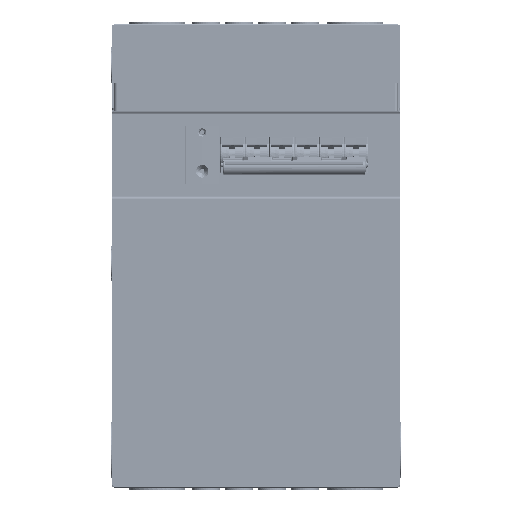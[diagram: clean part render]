
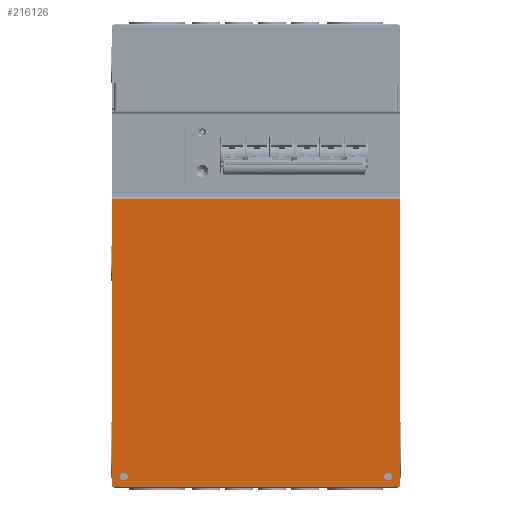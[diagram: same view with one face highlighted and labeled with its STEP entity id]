
A CAD part, top view. The second image highlights one B-rep face of the part: STEP entity #216126.
In plain terms, the highlighted planar face has unit normal (0, 0, 1).
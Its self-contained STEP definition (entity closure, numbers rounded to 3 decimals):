
#29957=LINE('',#393922,#49668);
#29964=LINE('',#393952,#49675);
#30006=LINE('',#394082,#49717);
#30010=LINE('',#394097,#49721);
#49668=VECTOR('',#298261,1000.);
#49675=VECTOR('',#298290,1000.);
#49717=VECTOR('',#298390,1000.);
#49721=VECTOR('',#298408,1000.);
#112506=ORIENTED_EDGE('',*,*,#144244,.F.);
#112507=ORIENTED_EDGE('',*,*,#144167,.F.);
#112508=ORIENTED_EDGE('',*,*,#144240,.T.);
#112509=ORIENTED_EDGE('',*,*,#144236,.T.);
#112510=ORIENTED_EDGE('',*,*,#144242,.T.);
#112511=ORIENTED_EDGE('',*,*,#144182,.T.);
#112512=ORIENTED_EDGE('',*,*,#144234,.T.);
#112513=ORIENTED_EDGE('',*,*,#144232,.T.);
#144167=EDGE_CURVE('',#164211,#164212,#29957,.T.);
#144182=EDGE_CURVE('',#164224,#164223,#29964,.T.);
#144232=EDGE_CURVE('',#164251,#164251,#171666,.T.);
#144234=EDGE_CURVE('',#164253,#164253,#171668,.T.);
#144236=EDGE_CURVE('',#164255,#164256,#30006,.T.);
#144240=EDGE_CURVE('',#164211,#164255,#171670,.F.);
#144242=EDGE_CURVE('',#164256,#164224,#171672,.F.);
#144244=EDGE_CURVE('',#164212,#164223,#30010,.T.);
#164211=VERTEX_POINT('',#393921);
#164212=VERTEX_POINT('',#393923);
#164223=VERTEX_POINT('',#393951);
#164224=VERTEX_POINT('',#393953);
#164251=VERTEX_POINT('',#394073);
#164253=VERTEX_POINT('',#394078);
#164255=VERTEX_POINT('',#394083);
#164256=VERTEX_POINT('',#394084);
#171666=CIRCLE('',#237317,3.048);
#171668=CIRCLE('',#237320,3.048);
#171670=CIRCLE('',#237324,2.54);
#171672=CIRCLE('',#237327,2.54);
#184735=EDGE_LOOP('',(#112506,#112507,#112508,#112509,#112510,#112511));
#184736=EDGE_LOOP('',(#112512));
#184737=EDGE_LOOP('',(#112513));
#197890=FACE_BOUND('',#184735,.T.);
#197891=FACE_BOUND('',#184736,.T.);
#197892=FACE_BOUND('',#184737,.T.);
#204172=PLANE('',#237329);
#216126=ADVANCED_FACE('',(#197890,#197891,#197892),#204172,.F.);
#237317=AXIS2_PLACEMENT_3D('',#394072,#298378,#298379);
#237320=AXIS2_PLACEMENT_3D('',#394077,#298384,#298385);
#237324=AXIS2_PLACEMENT_3D('',#394091,#298396,#298397);
#237327=AXIS2_PLACEMENT_3D('',#394094,#298402,#298403);
#237329=AXIS2_PLACEMENT_3D('',#394096,#298406,#298407);
#298261=DIRECTION('',(0.,1.,0.));
#298290=DIRECTION('',(0.,1.,0.));
#298378=DIRECTION('',(0.,0.,-1.));
#298379=DIRECTION('',(1.,0.,0.));
#298384=DIRECTION('',(0.,0.,-1.));
#298385=DIRECTION('',(1.,0.,0.));
#298390=DIRECTION('',(1.,0.,0.));
#298396=DIRECTION('',(0.,0.,-1.));
#298397=DIRECTION('',(0.,1.,0.));
#298402=DIRECTION('',(0.,0.,-1.));
#298403=DIRECTION('',(0.,1.,0.));
#298406=DIRECTION('',(0.,0.,-1.));
#298407=DIRECTION('',(0.,1.,0.));
#298408=DIRECTION('',(1.,0.,0.));
#393921=CARTESIAN_POINT('',(-110.49,-175.133,-1.016));
#393922=CARTESIAN_POINT('',(-110.49,-177.673,-1.016));
#393923=CARTESIAN_POINT('',(-110.49,43.394,-1.016));
#393951=CARTESIAN_POINT('',(110.49,43.394,-1.016));
#393952=CARTESIAN_POINT('',(110.49,-177.673,-1.016));
#393953=CARTESIAN_POINT('',(110.49,-175.133,-1.016));
#394072=CARTESIAN_POINT('',(-101.6,-169.545,-1.016));
#394073=CARTESIAN_POINT('',(-98.552,-169.545,-1.016));
#394077=CARTESIAN_POINT('',(101.6,-169.545,-1.016));
#394078=CARTESIAN_POINT('',(104.648,-169.545,-1.016));
#394082=CARTESIAN_POINT('',(-110.49,-177.673,-1.016));
#394083=CARTESIAN_POINT('',(-107.95,-177.673,-1.016));
#394084=CARTESIAN_POINT('',(107.95,-177.673,-1.016));
#394091=CARTESIAN_POINT('',(-107.95,-175.133,-1.016));
#394094=CARTESIAN_POINT('',(107.95,-175.133,-1.016));
#394096=CARTESIAN_POINT('',(-110.49,-177.673,-1.016));
#394097=CARTESIAN_POINT('',(-110.49,43.394,-1.016));
